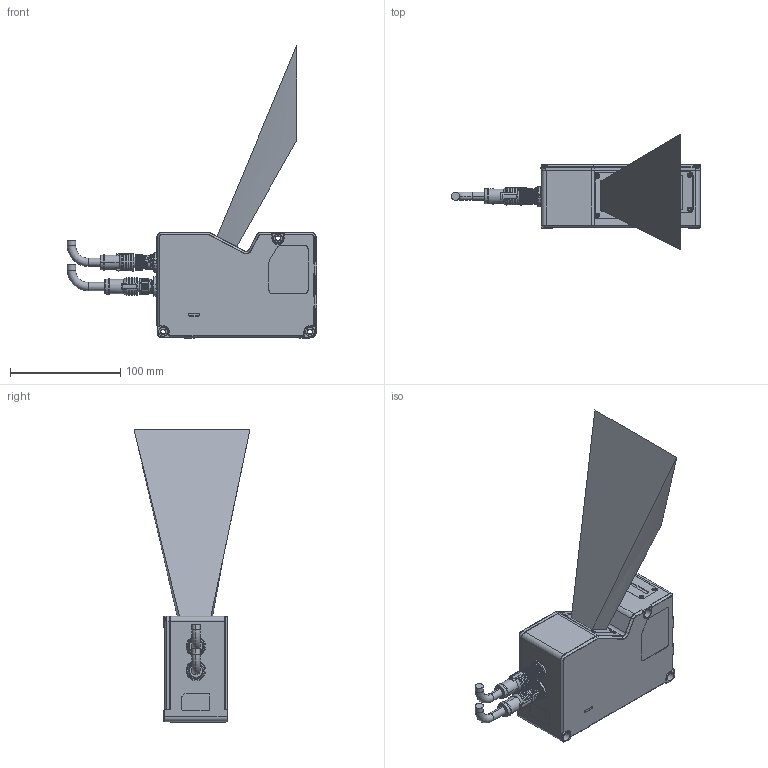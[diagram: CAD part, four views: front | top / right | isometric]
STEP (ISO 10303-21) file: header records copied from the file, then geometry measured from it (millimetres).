
FILE_DESCRIPTION((''),'2;1');
FILE_NAME('PRT0015','2026-05-20T18:43:43',('wangjiayi28'),(''),'CREO PARAMETRIC BY PTC INC, 2020044','CREO PARAMETRIC BY PTC INC, 2020044','');
FILE_SCHEMA(('AUTOMOTIVE_DESIGN { 1 0 10303 214 1 1 1 1 }'));
Products named in the file (1): PRT0015
Bounding box: 225.75 x 105 x 265 mm (x, y, z)
Volume: 3672.3 mm3; surface area: 107036.4 mm2
Topology: 2 solids, 54 shells, 1978 faces, 5810 edges, 3802 vertices
Faces by surface type: plane 968, cylinder 555, cone 230, torus 129, bspline 94, extrusion 2
Entity records: 106526 total; most frequent: CARTESIAN_POINT 55670, ORIENTED_EDGE 10512, DIRECTION 10204, EDGE_CURVE 5790, VERTEX_POINT 3802, AXIS2_PLACEMENT_3D 3741, VECTOR 2722, LINE 2720
